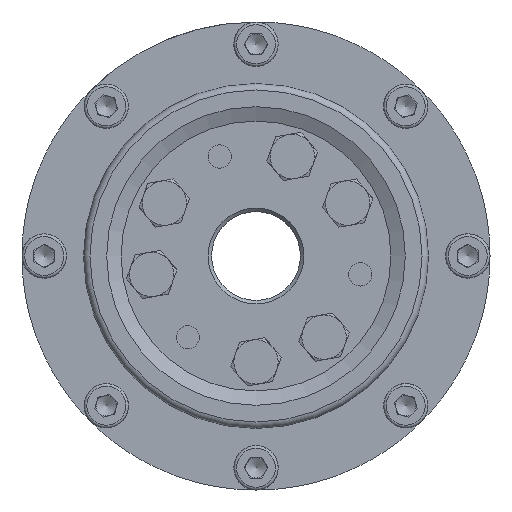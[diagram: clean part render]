
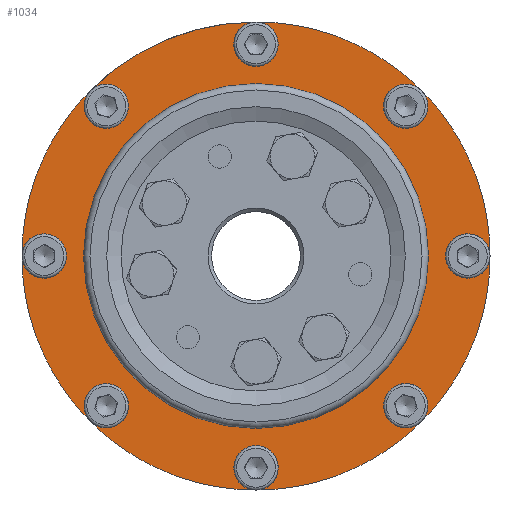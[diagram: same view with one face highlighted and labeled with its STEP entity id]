
A CAD part, left-side view. The second image highlights one B-rep face of the part: STEP entity #1034.
In plain terms, the highlighted planar face has unit normal (-1, 0, 0).
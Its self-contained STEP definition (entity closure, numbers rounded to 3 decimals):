
#1034 = ADVANCED_FACE( '', ( #2537, #2538 ), #2539, .T. );
#2537 = FACE_OUTER_BOUND( '', #4606, .T. );
#2538 = FACE_BOUND( '', #4607, .T. );
#2539 = PLANE( '', #4608 );
#4606 = EDGE_LOOP( '', ( #7588, #7589, #7590, #7591, #7592, #7593, #7594, #7595, #7596, #7597, #7598, #7599, #7600, #7601, #7602, #7603 ) );
#4607 = EDGE_LOOP( '', ( #7604 ) );
#4608 = AXIS2_PLACEMENT_3D( '', #7605, #7606, #7607 );
#7588 = ORIENTED_EDGE( '', *, *, #11100, .T. );
#7589 = ORIENTED_EDGE( '', *, *, #11124, .F. );
#7590 = ORIENTED_EDGE( '', *, *, #11099, .T. );
#7591 = ORIENTED_EDGE( '', *, *, #11560, .F. );
#7592 = ORIENTED_EDGE( '', *, *, #11098, .T. );
#7593 = ORIENTED_EDGE( '', *, *, #11561, .F. );
#7594 = ORIENTED_EDGE( '', *, *, #11105, .T. );
#7595 = ORIENTED_EDGE( '', *, *, #11362, .F. );
#7596 = ORIENTED_EDGE( '', *, *, #11104, .T. );
#7597 = ORIENTED_EDGE( '', *, *, #11056, .F. );
#7598 = ORIENTED_EDGE( '', *, *, #11103, .T. );
#7599 = ORIENTED_EDGE( '', *, *, #11562, .F. );
#7600 = ORIENTED_EDGE( '', *, *, #11102, .T. );
#7601 = ORIENTED_EDGE( '', *, *, #10944, .F. );
#7602 = ORIENTED_EDGE( '', *, *, #11101, .T. );
#7603 = ORIENTED_EDGE( '', *, *, #11563, .F. );
#7604 = ORIENTED_EDGE( '', *, *, #11564, .F. );
#7605 = CARTESIAN_POINT( '', ( -14., 0., 68.5 ) );
#7606 = DIRECTION( '', ( -1., 0., 0. ) );
#7607 = DIRECTION( '', ( 0., 0., 1. ) );
#10944 = EDGE_CURVE( '', #12952, #12952, #12953, .T. );
#11056 = EDGE_CURVE( '', #13135, #13135, #13136, .T. );
#11098 = EDGE_CURVE( '', #13208, #13209, #13210, .T. );
#11099 = EDGE_CURVE( '', #13211, #13208, #13212, .T. );
#11100 = EDGE_CURVE( '', #13213, #13211, #13214, .T. );
#11101 = EDGE_CURVE( '', #12952, #13213, #13215, .T. );
#11102 = EDGE_CURVE( '', #13216, #12952, #13217, .T. );
#11103 = EDGE_CURVE( '', #13135, #13216, #13218, .T. );
#11104 = EDGE_CURVE( '', #13219, #13135, #13220, .T. );
#11105 = EDGE_CURVE( '', #13209, #13219, #13221, .T. );
#11124 = EDGE_CURVE( '', #13211, #13211, #13252, .T. );
#11362 = EDGE_CURVE( '', #13219, #13219, #13636, .T. );
#11560 = EDGE_CURVE( '', #13208, #13208, #13936, .T. );
#11561 = EDGE_CURVE( '', #13209, #13209, #13937, .T. );
#11562 = EDGE_CURVE( '', #13216, #13216, #13938, .T. );
#11563 = EDGE_CURVE( '', #13213, #13213, #13939, .T. );
#11564 = EDGE_CURVE( '', #13940, #13940, #13941, .T. );
#12952 = VERTEX_POINT( '', #15961 );
#12953 = CIRCLE( '', #15962, 6.5 );
#13135 = VERTEX_POINT( '', #16357 );
#13136 = CIRCLE( '', #16358, 6.5 );
#13208 = VERTEX_POINT( '', #16681 );
#13209 = VERTEX_POINT( '', #16682 );
#13210 = CIRCLE( '', #16683, 68.5 );
#13211 = VERTEX_POINT( '', #16684 );
#13212 = CIRCLE( '', #16685, 68.5 );
#13213 = VERTEX_POINT( '', #16686 );
#13214 = CIRCLE( '', #16687, 68.5 );
#13215 = CIRCLE( '', #16688, 68.5 );
#13216 = VERTEX_POINT( '', #16689 );
#13217 = CIRCLE( '', #16690, 68.5 );
#13218 = CIRCLE( '', #16691, 68.5 );
#13219 = VERTEX_POINT( '', #16692 );
#13220 = CIRCLE( '', #16693, 68.5 );
#13221 = CIRCLE( '', #16694, 68.5 );
#13252 = CIRCLE( '', #16805, 6.5 );
#13636 = CIRCLE( '', #17651, 6.5 );
#13936 = CIRCLE( '', #18229, 6.5 );
#13937 = CIRCLE( '', #18230, 6.5 );
#13938 = CIRCLE( '', #18231, 6.5 );
#13939 = CIRCLE( '', #18232, 6.5 );
#13940 = VERTEX_POINT( '', #18233 );
#13941 = CIRCLE( '', #18234, 48.6 );
#15961 = CARTESIAN_POINT( '', ( -14., -48.437, -48.437 ) );
#15962 = AXIS2_PLACEMENT_3D( '', #20994, #20995, #20996 );
#16357 = CARTESIAN_POINT( '', ( -14., 48.437, -48.437 ) );
#16358 = AXIS2_PLACEMENT_3D( '', #21146, #21147, #21148 );
#16681 = CARTESIAN_POINT( '', ( -14., 0., 68.5 ) );
#16682 = CARTESIAN_POINT( '', ( -14., 48.437, 48.437 ) );
#16683 = AXIS2_PLACEMENT_3D( '', #21175, #21176, #21177 );
#16684 = CARTESIAN_POINT( '', ( -14., -48.437, 48.437 ) );
#16685 = AXIS2_PLACEMENT_3D( '', #21178, #21179, #21180 );
#16686 = CARTESIAN_POINT( '', ( -14., -68.5, 0. ) );
#16687 = AXIS2_PLACEMENT_3D( '', #21181, #21182, #21183 );
#16688 = AXIS2_PLACEMENT_3D( '', #21184, #21185, #21186 );
#16689 = CARTESIAN_POINT( '', ( -14., 0., -68.5 ) );
#16690 = AXIS2_PLACEMENT_3D( '', #21187, #21188, #21189 );
#16691 = AXIS2_PLACEMENT_3D( '', #21190, #21191, #21192 );
#16692 = CARTESIAN_POINT( '', ( -14., 68.5, 0. ) );
#16693 = AXIS2_PLACEMENT_3D( '', #21193, #21194, #21195 );
#16694 = AXIS2_PLACEMENT_3D( '', #21196, #21197, #21198 );
#16805 = AXIS2_PLACEMENT_3D( '', #21210, #21211, #21212 );
#17651 = AXIS2_PLACEMENT_3D( '', #21490, #21491, #21492 );
#18229 = AXIS2_PLACEMENT_3D( '', #21740, #21741, #21742 );
#18230 = AXIS2_PLACEMENT_3D( '', #21743, #21744, #21745 );
#18231 = AXIS2_PLACEMENT_3D( '', #21746, #21747, #21748 );
#18232 = AXIS2_PLACEMENT_3D( '', #21749, #21750, #21751 );
#18233 = CARTESIAN_POINT( '', ( -14., 0., 48.6 ) );
#18234 = AXIS2_PLACEMENT_3D( '', #21752, #21753, #21754 );
#20994 = CARTESIAN_POINT( '', ( -14., -43.841, -43.841 ) );
#20995 = DIRECTION( '', ( -1., 0., 0. ) );
#20996 = DIRECTION( '', ( 0., 0.707, 0.707 ) );
#21146 = CARTESIAN_POINT( '', ( -14., 43.841, -43.841 ) );
#21147 = DIRECTION( '', ( -1., 0., 0. ) );
#21148 = DIRECTION( '', ( 0., -0.707, 0.707 ) );
#21175 = CARTESIAN_POINT( '', ( -14., 0., 0. ) );
#21176 = DIRECTION( '', ( -1., 0., 0. ) );
#21177 = DIRECTION( '', ( 0., 0., 1. ) );
#21178 = CARTESIAN_POINT( '', ( -14., 0., 0. ) );
#21179 = DIRECTION( '', ( -1., 0., 0. ) );
#21180 = DIRECTION( '', ( 0., 0., 1. ) );
#21181 = CARTESIAN_POINT( '', ( -14., 0., 0. ) );
#21182 = DIRECTION( '', ( -1., 0., 0. ) );
#21183 = DIRECTION( '', ( 0., 0., 1. ) );
#21184 = CARTESIAN_POINT( '', ( -14., 0., 0. ) );
#21185 = DIRECTION( '', ( -1., 0., 0. ) );
#21186 = DIRECTION( '', ( 0., 0., 1. ) );
#21187 = CARTESIAN_POINT( '', ( -14., 0., 0. ) );
#21188 = DIRECTION( '', ( -1., 0., 0. ) );
#21189 = DIRECTION( '', ( 0., 0., 1. ) );
#21190 = CARTESIAN_POINT( '', ( -14., 0., 0. ) );
#21191 = DIRECTION( '', ( -1., 0., 0. ) );
#21192 = DIRECTION( '', ( 0., 0., 1. ) );
#21193 = CARTESIAN_POINT( '', ( -14., 0., 0. ) );
#21194 = DIRECTION( '', ( -1., 0., 0. ) );
#21195 = DIRECTION( '', ( 0., 0., 1. ) );
#21196 = CARTESIAN_POINT( '', ( -14., 0., 0. ) );
#21197 = DIRECTION( '', ( -1., 0., 0. ) );
#21198 = DIRECTION( '', ( 0., 0., 1. ) );
#21210 = CARTESIAN_POINT( '', ( -14., -43.841, 43.841 ) );
#21211 = DIRECTION( '', ( -1., 0., 0. ) );
#21212 = DIRECTION( '', ( 0., 0.707, -0.707 ) );
#21490 = CARTESIAN_POINT( '', ( -14., 62., 0. ) );
#21491 = DIRECTION( '', ( -1., 0., 0. ) );
#21492 = DIRECTION( '', ( 0., -1., 0. ) );
#21740 = CARTESIAN_POINT( '', ( -14., 0., 62. ) );
#21741 = DIRECTION( '', ( -1., 0., 0. ) );
#21742 = DIRECTION( '', ( 0., 0., -1. ) );
#21743 = CARTESIAN_POINT( '', ( -14., 43.841, 43.841 ) );
#21744 = DIRECTION( '', ( -1., 0., 0. ) );
#21745 = DIRECTION( '', ( 0., -0.707, -0.707 ) );
#21746 = CARTESIAN_POINT( '', ( -14., 0., -62. ) );
#21747 = DIRECTION( '', ( -1., 0., 0. ) );
#21748 = DIRECTION( '', ( 0., 0., 1. ) );
#21749 = CARTESIAN_POINT( '', ( -14., -62., 0. ) );
#21750 = DIRECTION( '', ( -1., 0., 0. ) );
#21751 = DIRECTION( '', ( 0., 1., 0. ) );
#21752 = CARTESIAN_POINT( '', ( -14., 0., 0. ) );
#21753 = DIRECTION( '', ( -1., 0., 0. ) );
#21754 = DIRECTION( '', ( 0., 0., 1. ) );
